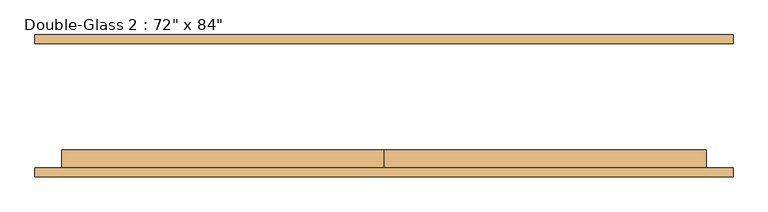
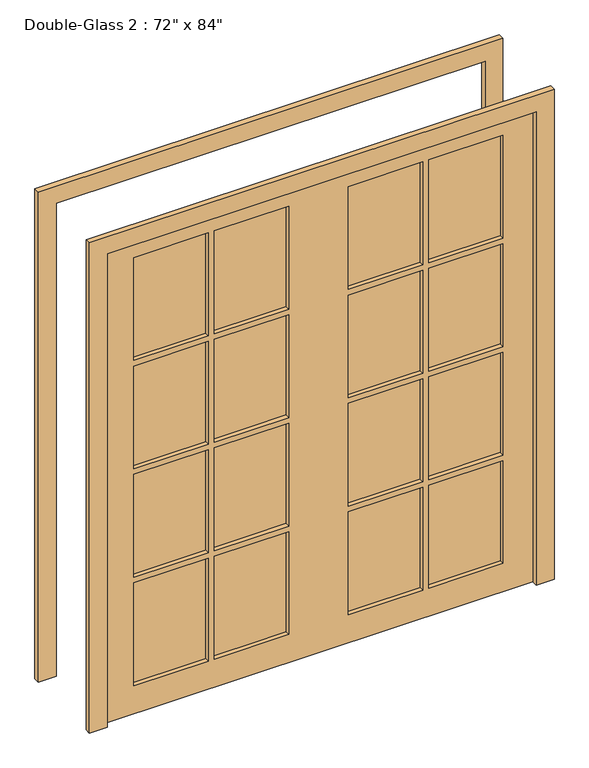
"""IFC4 building model written with IfcOpenShell, lengths in millimetres: door geometry."""

from ifc_helpers import new_model, si_unit, frame, origin, place, context, project, spatial, polyline, outline, extrude, source, transform, mapped, element, save


def door_8fade463(model_context):
    return source(origin(), model_context, "Body", "SweptSolid", [
        extrude(outline(polyline([(469.9, -157.1625), (469.9, -144.4625), (787.4, -144.4625), (787.4, -157.1625), (469.9, -157.1625)])), frame((0.0, 0.0, 1593.85), z_axis=(0.0, 0.0, 1.0), x_axis=(1.0, 0.0, 0.0)), (0.0, 0.0, 1.0), 463.55),
        extrude(outline(polyline([(127.0, -157.1625), (127.0, -144.4625), (444.5, -144.4625), (444.5, -157.1625), (127.0, -157.1625)])), frame((0.0, 0.0, 1593.85), z_axis=(0.0, 0.0, 1.0), x_axis=(1.0, 0.0, 0.0)), (0.0, 0.0, 1.0), 463.55),
        extrude(outline(polyline([(-444.5, -157.1625), (-444.5, -144.4625), (-127.0, -144.4625), (-127.0, -157.1625), (-444.5, -157.1625)])), frame((0.0, 0.0, 1593.85), z_axis=(0.0, 0.0, 1.0), x_axis=(1.0, 0.0, 0.0)), (0.0, 0.0, 1.0), 463.55),
        extrude(outline(polyline([(-787.4, -157.1625), (-787.4, -144.4625), (-469.9, -144.4625), (-469.9, -157.1625), (-787.4, -157.1625)])), frame((0.0, 0.0, 1593.85), z_axis=(0.0, 0.0, 1.0), x_axis=(1.0, 0.0, 0.0)), (0.0, 0.0, 1.0), 463.55),
        extrude(outline(polyline([(-787.4, -157.1625), (-787.4, -144.4625), (-469.9, -144.4625), (-469.9, -157.1625), (-787.4, -157.1625)])), frame((0.0, 0.0, 1104.9), z_axis=(0.0, 0.0, 1.0), x_axis=(1.0, 0.0, 0.0)), (0.0, 0.0, 1.0), 463.55),
        extrude(outline(polyline([(-444.5, -157.1625), (-444.5, -144.4625), (-127.0, -144.4625), (-127.0, -157.1625), (-444.5, -157.1625)])), frame((0.0, 0.0, 1104.9), z_axis=(0.0, 0.0, 1.0), x_axis=(1.0, 0.0, 0.0)), (0.0, 0.0, 1.0), 463.55),
        extrude(outline(polyline([(127.0, -157.1625), (127.0, -144.4625), (444.5, -144.4625), (444.5, -157.1625), (127.0, -157.1625)])), frame((0.0, 0.0, 1104.9), z_axis=(0.0, 0.0, 1.0), x_axis=(1.0, 0.0, 0.0)), (0.0, 0.0, 1.0), 463.55),
        extrude(outline(polyline([(469.9, -157.1625), (469.9, -144.4625), (787.4, -144.4625), (787.4, -157.1625), (469.9, -157.1625)])), frame((0.0, 0.0, 1104.9), z_axis=(0.0, 0.0, 1.0), x_axis=(1.0, 0.0, 0.0)), (0.0, 0.0, 1.0), 463.55),
        extrude(outline(polyline([(469.9, -157.1625), (469.9, -144.4625), (787.4, -144.4625), (787.4, -157.1625), (469.9, -157.1625)])), frame((0.0, 0.0, 615.95), z_axis=(0.0, 0.0, 1.0), x_axis=(1.0, 0.0, 0.0)), (0.0, 0.0, 1.0), 463.55),
        extrude(outline(polyline([(127.0, -157.1625), (127.0, -144.4625), (444.5, -144.4625), (444.5, -157.1625), (127.0, -157.1625)])), frame((0.0, 0.0, 615.95), z_axis=(0.0, 0.0, 1.0), x_axis=(1.0, 0.0, 0.0)), (0.0, 0.0, 1.0), 463.55),
        extrude(outline(polyline([(-444.5, -157.1625), (-444.5, -144.4625), (-127.0, -144.4625), (-127.0, -157.1625), (-444.5, -157.1625)])), frame((0.0, 0.0, 615.95), z_axis=(0.0, 0.0, 1.0), x_axis=(1.0, 0.0, 0.0)), (0.0, 0.0, 1.0), 463.55),
        extrude(outline(polyline([(-787.4, -157.1625), (-787.4, -144.4625), (-469.9, -144.4625), (-469.9, -157.1625), (-787.4, -157.1625)])), frame((0.0, 0.0, 615.95), z_axis=(0.0, 0.0, 1.0), x_axis=(1.0, 0.0, 0.0)), (0.0, 0.0, 1.0), 463.55),
        extrude(outline(polyline([(469.9, -157.1625), (469.9, -144.4625), (787.4, -144.4625), (787.4, -157.1625), (469.9, -157.1625)])), frame((0.0, 0.0, 127.0), z_axis=(0.0, 0.0, 1.0), x_axis=(1.0, 0.0, 0.0)), (0.0, 0.0, 1.0), 463.55),
        extrude(outline(polyline([(127.0, -157.1625), (127.0, -144.4625), (444.5, -144.4625), (444.5, -157.1625), (127.0, -157.1625)])), frame((0.0, 0.0, 127.0), z_axis=(0.0, 0.0, 1.0), x_axis=(1.0, 0.0, 0.0)), (0.0, 0.0, 1.0), 463.55),
        extrude(outline(polyline([(-444.5, -157.1625), (-444.5, -144.4625), (-127.0, -144.4625), (-127.0, -157.1625), (-444.5, -157.1625)])), frame((0.0, 0.0, 127.0), z_axis=(0.0, 0.0, 1.0), x_axis=(1.0, 0.0, 0.0)), (0.0, 0.0, 1.0), 463.55),
        extrude(outline(polyline([(-787.4, -157.1625), (-787.4, -144.4625), (-469.9, -144.4625), (-469.9, -157.1625), (-787.4, -157.1625)])), frame((0.0, 0.0, 127.0), z_axis=(0.0, 0.0, 1.0), x_axis=(1.0, 0.0, 0.0)), (0.0, 0.0, 1.0), 463.55),
        extrude(outline(polyline([(2133.6, 0.0), (2133.6, -914.4), (0.0, -914.4), (0.0, 0.0), (0.0, 914.4), (2133.6, 914.4), (2133.6, 0.0)]), holes=[polyline([(2057.4, 469.9), (2057.4, 787.4), (1593.85, 787.4), (1593.85, 469.9), (2057.4, 469.9)]), polyline([(2057.4, 127.0), (2057.4, 444.5), (1593.85, 444.5), (1593.85, 127.0), (2057.4, 127.0)]), polyline([(1568.45, 469.9), (1568.45, 787.4), (1104.9, 787.4), (1104.9, 469.9), (1568.45, 469.9)]), polyline([(1568.45, 127.0), (1568.45, 444.5), (1104.9, 444.5), (1104.9, 127.0), (1568.45, 127.0)]), polyline([(1079.5, 469.9), (1079.5, 787.4), (615.95, 787.4), (615.95, 469.9), (1079.5, 469.9)]), polyline([(1079.5, 127.0), (1079.5, 444.5), (615.95, 444.5), (615.95, 127.0), (1079.5, 127.0)]), polyline([(590.55, 469.9), (590.55, 787.4), (127.0, 787.4), (127.0, 469.9), (590.55, 469.9)]), polyline([(590.55, 127.0), (590.55, 444.5), (127.0, 444.5), (127.0, 127.0), (590.55, 127.0)]), polyline([(2057.4, -444.5), (2057.4, -127.0), (1593.85, -127.0), (1593.85, -444.5), (2057.4, -444.5)]), polyline([(1568.45, -444.5), (1568.45, -127.0), (1104.9, -127.0), (1104.9, -444.5), (1568.45, -444.5)]), polyline([(1568.45, -469.9), (1104.9, -469.9), (1104.9, -787.4), (1568.45, -787.4), (1568.45, -469.9)]), polyline([(1079.5, -444.5), (1079.5, -127.0), (615.95, -127.0), (615.95, -444.5), (1079.5, -444.5)]), polyline([(1079.5, -469.9), (615.95, -469.9), (615.95, -787.4), (1079.5, -787.4), (1079.5, -469.9)]), polyline([(590.55, -444.5), (590.55, -127.0), (127.0, -127.0), (127.0, -444.5), (590.55, -444.5)]), polyline([(590.55, -787.4), (590.55, -469.9), (127.0, -469.9), (127.0, -787.4), (590.55, -787.4)]), polyline([(1593.85, -469.9), (1593.85, -787.4), (2057.4, -787.4), (2057.4, -469.9), (1593.85, -469.9)])]), frame((0.0, -176.2125, 0.0), z_axis=(0.0, 1.0, 0.0), x_axis=(0.0, 0.0, 1.0)), (0.0, 0.0, 1.0), 50.8),
        extrude(outline(polyline([(2133.6, -914.4), (2133.6, 914.4), (0.0, 914.4), (0.0, 990.6), (2209.8, 990.6), (2209.8, -990.6), (0.0, -990.6), (0.0, -914.4), (2133.6, -914.4)])), frame((0.0, 176.2125, 0.0), z_axis=(0.0, 1.0, 0.0), x_axis=(0.0, 0.0, 1.0)), (0.0, 0.0, 1.0), 25.4),
        extrude(outline(polyline([(2133.6, -914.4), (2133.6, 914.4), (0.0, 914.4), (0.0, 990.6), (2209.8, 990.6), (2209.8, -990.6), (0.0, -990.6), (0.0, -914.4), (2133.6, -914.4)])), frame((0.0, -201.6125, 0.0), z_axis=(0.0, 1.0, 0.0), x_axis=(0.0, 0.0, 1.0)), (0.0, 0.0, 1.0), 25.4),
    ])


if __name__ == "__main__":
    model = new_model("IFC4")
    model_context = context("Model", 3, world=origin())
    ifc_project = project(units=[si_unit("LENGTHUNIT", "METRE", prefix="MILLI")], contexts=[model_context])
    site = spatial("IfcSite", under=ifc_project)
    building = spatial("IfcBuilding", under=site)
    placement = place(None, origin())
    door_shape = door_8fade463(model_context)
    element("IfcDoor", 1, ObjectType="Double-Glass 2 : 72\" x 84\"", at=placement, inside=building, context=model_context, shape_type="MappedRepresentation", body=[
        mapped(door_shape, transform((0.0, 0.0, 0.0), x_axis=(1.0, 0.0, 0.0), y_axis=(0.0, 1.0, 0.0), z_axis=(0.0, 0.0, 1.0))),
    ])
    save(model, "model.ifc")
